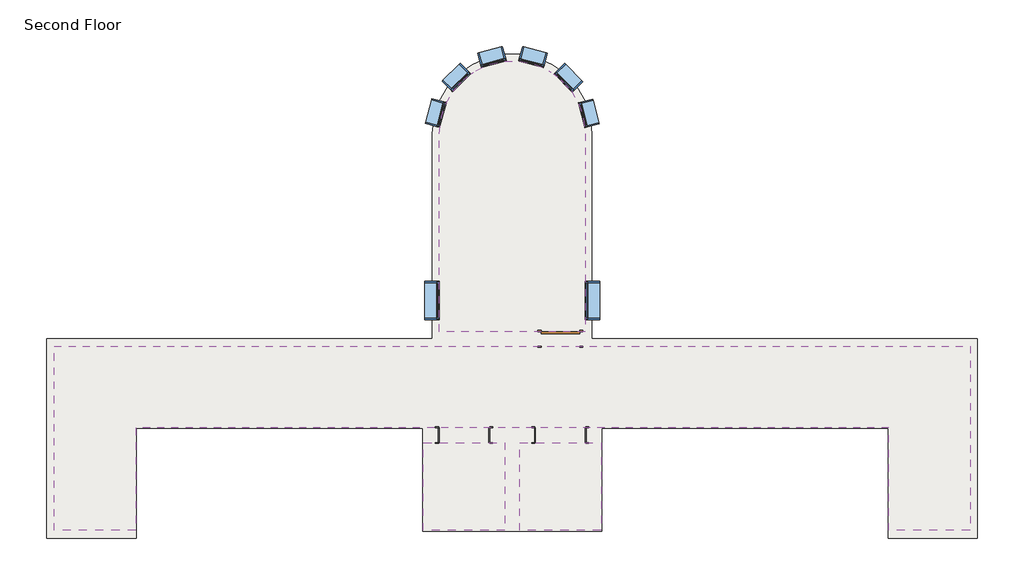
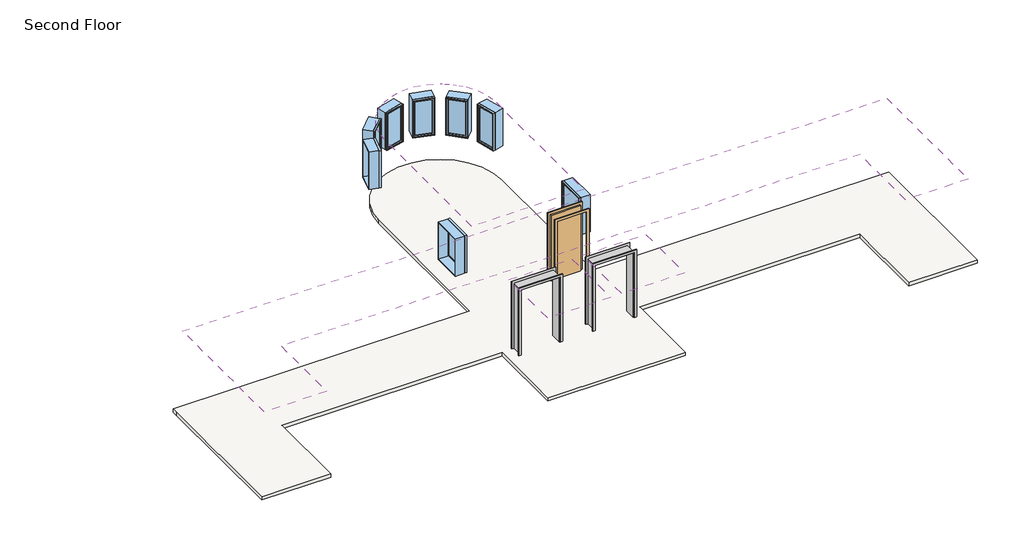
# One storey: 8 windows, 4 coverings, 2 proxies, 1 door, 1 slab.
"""IFC4 building model written with IfcOpenShell, lengths in millimetres."""

import ifcopenshell
import ifcopenshell.guid

model = None  # the IFC model being written
_history = None  # IfcOwnerHistory: only IFC2X3 demands one
_inside = {}  # id of a spatial element -> (the spatial element, [elements in it])
_under = {}  # id of a project, library or spatial element -> (it, [spatial elements below it])
_declared = {}  # id of a project -> (the project, [libraries it declares])
_typed = {}  # id of a type object -> (the type object, [elements of that type])
_made_of = {}  # id of a material, layer set ... -> (it, [elements and type objects made of it])


def new_model(schema):
    """Start an empty IFC model of exactly this schema.

    Asked for "IFC4X3", IfcOpenShell would pick the latest addendum, in which some entities
    have other attributes; the version numbers below select the first issue.
    IFC2X3 requires an IfcOwnerHistory on every rooted entity: one is made here for all.
    """
    global model, _history
    if schema == "IFC4X3":
        model = ifcopenshell.file(schema_version=(4, 3, 0, 0))
    else:
        model = ifcopenshell.file(schema=schema)
    _inside.clear()
    _under.clear()
    _declared.clear()
    _typed.clear()
    _made_of.clear()
    _history = None
    if model.schema == "IFC2X3":
        org = make("IfcOrganization", Name="unknown")
        user = make(
            "IfcPersonAndOrganization",
            ThePerson=make("IfcPerson", FamilyName="unknown"),
            TheOrganization=org,
        )
        app = make(
            "IfcApplication",
            ApplicationDeveloper=org,
            Version="unknown",
            ApplicationFullName="unknown",
            ApplicationIdentifier="unknown",
        )
        _history = make(
            "IfcOwnerHistory",
            OwningUser=user,
            OwningApplication=app,
            ChangeAction="ADDED",
            CreationDate=0,
        )
    return model


def make(cls, **values):
    """One entity of the class cls with the attributes given. An attribute that is None is left unset."""
    return model.create_entity(
        cls, **{name: value for name, value in values.items() if value is not None}
    )


def rooted(cls, **values):
    """An entity with a GlobalId (a new one), such as an element, a storey or a relation."""
    return make(cls, GlobalId=ifcopenshell.guid.new(), OwnerHistory=_history, **values)


def si_unit(unit_type, name, prefix=None):
    """IfcSIUnit, for example si_unit("LENGTHUNIT", "METRE", prefix="MILLI")."""
    return make("IfcSIUnit", UnitType=unit_type, Prefix=prefix, Name=name)


def assignment(units):
    """IfcUnitAssignment: the units of a project."""
    return None if units is None else make("IfcUnitAssignment", Units=units)


def point(xyz):
    """IfcCartesianPoint."""
    return None if xyz is None else make("IfcCartesianPoint", Coordinates=xyz)


def direction(xyz):
    """IfcDirection."""
    return None if xyz is None else make("IfcDirection", DirectionRatios=xyz)


def frame(location, z_axis=None, x_axis=None):
    """IfcAxis2Placement3D, a coordinate frame: its origin and axes. An axis left out is left unset."""
    return make(
        "IfcAxis2Placement3D",
        Location=point(location),
        Axis=direction(z_axis),
        RefDirection=direction(x_axis),
    )


def frame_2d(location, x_axis=None):
    """IfcAxis2Placement2D, a coordinate frame in the plane: its origin and x axis."""
    return make(
        "IfcAxis2Placement2D", Location=point(location), RefDirection=direction(x_axis)
    )


def origin():
    """The frame at (0, 0, 0) with its axes left unset."""
    return frame((0.0, 0.0, 0.0))


def origin_with_axes():
    """The frame at (0, 0, 0) with the z axis (0, 0, 1) and the x axis (1, 0, 0) written out."""
    return frame((0.0, 0.0, 0.0), z_axis=(0.0, 0.0, 1.0), x_axis=(1.0, 0.0, 0.0))


def place(relative_to, where):
    """IfcLocalPlacement: puts the frame where relative to a parent placement (None: the world)."""
    return make(
        "IfcLocalPlacement", PlacementRelTo=relative_to, RelativePlacement=where
    )


def context(
    kind, dimensions, precision=None, world=None, true_north=None, identifier=None
):
    """IfcGeometricRepresentationContext, for example the 3D "Model" context."""
    return make(
        "IfcGeometricRepresentationContext",
        ContextIdentifier=identifier,
        ContextType=kind,
        CoordinateSpaceDimension=dimensions,
        Precision=precision,
        WorldCoordinateSystem=world,
        TrueNorth=true_north,
    )


def project(units=None, contexts=None):
    """IfcProject with its units and contexts."""
    return rooted(
        "IfcProject",
        Name="project",
        RepresentationContexts=contexts,
        UnitsInContext=assignment(units),
    )


def spatial(cls, under=None, at=None, **own):
    """A site, building, storey or space (cls), placed at a placement, below another one or the project."""
    s = rooted(cls, ObjectPlacement=at, **own)
    if under is not None:
        _under.setdefault(under.id(), (under, []))[1].append(s)
    return s


def polyline(points):
    """IfcPolyline through the points."""
    return make("IfcPolyline", Points=[point(p) for p in points])


def circle_curve(where, radius):
    """IfcCircle in the frame where."""
    return make("IfcCircle", Position=where, Radius=radius)


def trimmed(basis, trim1, trim2, sense, master):
    """IfcTrimmedCurve: the piece of a basis curve between two trims."""
    return make(
        "IfcTrimmedCurve",
        BasisCurve=basis,
        Trim1=trim1,
        Trim2=trim2,
        SenseAgreement=sense,
        MasterRepresentation=master,
    )


def segment(curve, same_sense, transition):
    """IfcCompositeCurveSegment."""
    return make(
        "IfcCompositeCurveSegment",
        Transition=transition,
        SameSense=same_sense,
        ParentCurve=curve,
    )


def composite_curve(segments, self_intersect=None):
    """IfcCompositeCurve: segments joined end to end."""
    return make("IfcCompositeCurve", Segments=segments, SelfIntersect=self_intersect)


def outline(outer, holes=None, kind="AREA"):
    """IfcArbitraryClosedProfileDef: a profile drawn as a closed curve; with holes, ...WithVoids."""
    if holes is None:
        return make("IfcArbitraryClosedProfileDef", ProfileType=kind, OuterCurve=outer)
    return make(
        "IfcArbitraryProfileDefWithVoids",
        ProfileType=kind,
        OuterCurve=outer,
        InnerCurves=holes,
    )


def extrude(swept, where, along, depth):
    """IfcExtrudedAreaSolid: the profile swept, set in the frame where, extruded along a direction by depth."""
    return make(
        "IfcExtrudedAreaSolid",
        SweptArea=swept,
        Position=where,
        ExtrudedDirection=direction(along),
        Depth=depth,
    )


def faces_of(points, faces, orient=None, outer=None):
    """IfcFace entities. A face is a list of loops; a loop is a list of indices into points, from 0.

    orient and outer hold one flag for each loop. By default every Orientation is true, the
    first loop of a face is its IfcFaceOuterBound and the others are IfcFaceBound.
    """
    made = []
    for i, loops in enumerate(faces):
        bounds = []
        for j, loop in enumerate(loops):
            is_outer = j == 0 if outer is None else outer[i][j]
            bounds.append(
                make(
                    "IfcFaceOuterBound" if is_outer else "IfcFaceBound",
                    Bound=make("IfcPolyLoop", Polygon=[points[k] for k in loop]),
                    Orientation=True if orient is None else orient[i][j],
                )
            )
        made.append(make("IfcFace", Bounds=bounds))
    return made


def faceted_brep(points, faces, orient=None, outer=None, voids=None):
    """IfcFacetedBrep: a solid bounded by flat faces; with voids (closed shells), ...WithVoids."""
    shared = [point(p) for p in points]
    hull = make("IfcClosedShell", CfsFaces=faces_of(shared, faces, orient, outer))
    if voids is None:
        return make("IfcFacetedBrep", Outer=hull)
    return make(
        "IfcFacetedBrepWithVoids",
        Outer=hull,
        Voids=[
            make(cls, CfsFaces=faces_of(shared, fs, o, b)) for cls, fs, o, b in voids
        ],
    )


def shape(context_of_items, identifier, shape_type, items):
    """IfcShapeRepresentation: the items that make up one representation, for example the "Body"."""
    return make(
        "IfcShapeRepresentation",
        ContextOfItems=context_of_items,
        RepresentationIdentifier=identifier,
        RepresentationType=shape_type,
        Items=items,
    )


def source(mapping_origin, context_of_items, identifier, shape_type, items):
    """IfcRepresentationMap: a shape defined once, which mapped items show again and again."""
    return make(
        "IfcRepresentationMap",
        MappingOrigin=mapping_origin,
        MappedRepresentation=shape(context_of_items, identifier, shape_type, items),
    )


def transform(
    local_origin,
    x_axis=None,
    y_axis=None,
    z_axis=None,
    scale=None,
    scale2=None,
    scale3=None,
    uniform=True,
):
    """IfcCartesianTransformationOperator3D, or its non-uniform kind. x_axis, y_axis, z_axis: its Axis1, 2, 3."""
    if uniform:
        return make(
            "IfcCartesianTransformationOperator3D",
            Axis1=direction(x_axis),
            Axis2=direction(y_axis),
            LocalOrigin=point(local_origin),
            Scale=scale,
            Axis3=direction(z_axis),
        )
    return make(
        "IfcCartesianTransformationOperator3DnonUniform",
        Axis1=direction(x_axis),
        Axis2=direction(y_axis),
        LocalOrigin=point(local_origin),
        Scale=scale,
        Axis3=direction(z_axis),
        Scale2=scale2,
        Scale3=scale3,
    )


def mapped(mapping_source, mapping_target):
    """IfcMappedItem: shows the shape of a source again, moved by a transform."""
    return make(
        "IfcMappedItem", MappingSource=mapping_source, MappingTarget=mapping_target
    )


def made_of(thing, what):
    """Note that an element or type object is made of a material, layer set ...; save() writes the relation."""
    if what is not None:
        _made_of.setdefault(what.id(), (what, []))[1].append(thing)
    return thing


def element(
    cls,
    number,
    at=None,
    inside=None,
    cuts=None,
    type_object=None,
    material=None,
    context=None,
    identifier="Body",
    shape_type=None,
    held_by="IfcProductDefinitionShape",
    body=None,
    shapes=None,
    **own,
):
    """One element of the class cls, such as IfcWall. Its Tag is "e" and its number.

    at: its placement. inside: the storey or other place that contains it. cuts: it is an
    opening in that element (IfcRelVoidsElement). A single representation is given by context,
    identifier, shape_type and body (its items); several are given by shapes. held_by: the class
    of the entity that holds the representations. save() writes the other relations.
    """
    e = rooted(cls, Tag="e%d" % number, ObjectPlacement=at, **own)
    if body is not None:
        shapes = [shape(context, identifier, shape_type, body)]
    if shapes is not None:
        e.Representation = make(held_by, Representations=shapes)
    if inside is not None:
        _inside.setdefault(inside.id(), (inside, []))[1].append(e)
    if cuts is not None:
        rooted(
            "IfcRelVoidsElement", RelatingBuildingElement=cuts, RelatedOpeningElement=e
        )
    if type_object is not None:
        _typed.setdefault(type_object.id(), (type_object, []))[1].append(e)
    return made_of(e, material)


def aggregate(whole, parts):
    """IfcRelAggregates: a whole, such as a stair, and the parts it consists of."""
    return rooted("IfcRelAggregates", RelatingObject=whole, RelatedObjects=parts)


def save(model, path):
    """Write the relations noted so far, then the file.

    IfcRelAggregates (storeys below a building ...), IfcRelContainedInSpatialStructure (elements
    in a storey), IfcRelDefinesByType, IfcRelAssociatesMaterial and IfcRelDeclares: one each for
    every whole, place, type object, material and project.
    """
    for whole, parts in _under.values():
        aggregate(whole, parts)
    for where, things in _inside.values():
        rooted(
            "IfcRelContainedInSpatialStructure",
            RelatedElements=things,
            RelatingStructure=where,
        )
    for kind, things in _typed.values():
        rooted("IfcRelDefinesByType", RelatedObjects=things, RelatingType=kind)
    for what, things in _made_of.values():
        rooted("IfcRelAssociatesMaterial", RelatedObjects=things, RelatingMaterial=what)
    for by, libraries in _declared.values():
        rooted("IfcRelDeclares", RelatingContext=by, RelatedDefinitions=libraries)
    model.write(path)


def proxy_c3589814(model_context):
    return source(origin(), model_context, "Body", "SolidModel", [
        extrude(outline(polyline([(0.0, -611.4386567), (2127.25, -611.4386567), (2127.25, 595.0613433), (0.0, 595.0613433), (0.0, 671.2613433), (2203.45, 671.2613433), (2203.45, -687.6386567), (0.0, -687.6386567), (0.0, -611.4386567)])), frame((0.0, -195.2625, 0.0), z_axis=(0.0, 1.0, 0.0), x_axis=(0.0, 0.0, 1.0)), (0.0, 0.0, 1.0), 19.05),
        extrude(outline(polyline([(0.0, 671.2613433), (2209.8, 671.2613433), (2209.8, -687.6386567), (0.0, -687.6386567), (0.0, -611.4386567), (2127.25, -611.4386567), (2127.25, 595.0613433), (0.0, 595.0613433), (0.0, 671.2613433)])), frame((0.0, 176.2125, 0.0), z_axis=(0.0, 1.0, 0.0), x_axis=(0.0, 0.0, 1.0)), (0.0, 0.0, 1.0), 19.05),
        faceted_brep([(582.3613433, 176.2125, 0.0), (601.4113433, 176.2125, 0.0), (601.4113433, -176.2125, 0.0), (582.3613433, -176.2125, 0.0), (582.3613433, 176.2125, 2114.55), (601.4113433, 176.2125, 2133.6), (601.4113433, -176.2125, 2133.6), (582.3613433, -176.2125, 2114.55), (-598.7386567, 176.2125, 2114.55), (-617.7886567, 176.2125, 2133.6), (-617.7886567, -176.2125, 2133.6), (-598.7386567, -176.2125, 2114.55), (-598.7386567, 176.2125, 0.0), (-598.7386567, -176.2125, 0.0), (-617.7886567, -176.2125, 0.0), (-617.7886567, 176.2125, 0.0)], [[[0, 1, 2, 3]], [[1, 0, 4, 5]], [[2, 1, 5, 6]], [[3, 2, 6, 7]], [[0, 3, 7, 4]], [[5, 4, 8, 9]], [[6, 5, 9, 10]], [[7, 6, 10, 11]], [[4, 7, 11, 8]], [[12, 13, 14, 15]], [[9, 8, 12, 15]], [[10, 9, 15, 14]], [[11, 10, 14, 13]], [[8, 11, 13, 12]]]),
    ])


def door_632be17d(model_context):
    return source(origin(), model_context, "Body", "SweptSolid", [
        extrude(outline(polyline([(2209.8, -533.4), (0.0, -533.4), (0.0, -457.2), (2133.6, -457.2), (2133.6, 457.2), (0.0, 457.2), (0.0, 533.4), (2209.8, 533.4), (2209.8, -533.4)])), frame((0.0, 176.2125, 0.0), z_axis=(0.0, 1.0, 0.0), x_axis=(0.0, 0.0, 1.0)), (0.0, 0.0, 1.0), 25.4),
        extrude(outline(polyline([(2209.8, 533.4), (2209.8, -533.4), (0.0, -533.4), (0.0, -457.2), (2133.6, -457.2), (2133.6, 457.2), (0.0, 457.2), (0.0, 533.4), (2209.8, 533.4)])), frame((0.0, -201.6125, 0.0), z_axis=(0.0, 1.0, 0.0), x_axis=(0.0, 0.0, 1.0)), (0.0, 0.0, 1.0), 25.4),
        extrude(outline(polyline([(457.2, 125.4125), (-457.2, 125.4125), (-457.2, 176.2125), (457.2, 176.2125), (457.2, 125.4125)])), origin_with_axes(), (0.0, 0.0, 1.0), 2133.6),
    ])


def window_60baf983(model_context):
    return source(origin(), model_context, "Body", "SweptSolid", [
        extrude(outline(polyline([(203.2, 128.5875), (-279.4, 128.5875), (-279.4, 141.2875), (203.2, 141.2875), (203.2, 128.5875)])), frame((0.0, 0.0, 977.9), z_axis=(0.0, 0.0, 1.0), x_axis=(1.0, 0.0, 0.0)), (0.0, 0.0, 1.0), 1092.2),
        extrude(outline(polyline([(2114.55, -323.85), (933.45, -323.85), (933.45, 247.65), (2114.55, 247.65), (2114.55, -323.85)]), holes=[polyline([(2070.1, -279.4), (2070.1, 203.2), (977.9, 203.2), (977.9, -279.4), (2070.1, -279.4)])]), frame((0.0, 112.7125, 0.0), z_axis=(0.0, 1.0, 0.0), x_axis=(0.0, 0.0, 1.0)), (0.0, 0.0, 1.0), 44.45),
        extrude(outline(polyline([(2133.6, -342.9), (914.4, -342.9), (914.4, 266.7), (2133.6, 266.7), (2133.6, -342.9)]), holes=[polyline([(2101.85, -311.15), (2101.85, 234.95), (946.15, 234.95), (946.15, -311.15), (2101.85, -311.15)])]), frame((0.0, -176.2125, 0.0), z_axis=(0.0, 1.0, 0.0), x_axis=(0.0, 0.0, 1.0)), (0.0, 0.0, 1.0), 288.925),
        extrude(outline(polyline([(2133.6, 266.7), (2133.6, -342.9), (914.4, -342.9), (914.4, 266.7), (2133.6, 266.7)]), holes=[polyline([(2114.55, 247.65), (933.45, 247.65), (933.45, -323.85), (2114.55, -323.85), (2114.55, 247.65)])]), frame((0.0, 112.7125, 0.0), z_axis=(0.0, 1.0, 0.0), x_axis=(0.0, 0.0, 1.0)), (0.0, 0.0, 1.0), 63.5),
    ])


def window_15c49d37(model_context):
    return source(origin(), model_context, "Body", "SweptSolid", [
        extrude(outline(polyline([(355.6, 128.5875), (-431.8, 128.5875), (-431.8, 141.2875), (355.6, 141.2875), (355.6, 128.5875)])), frame((0.0, 0.0, 977.9), z_axis=(0.0, 0.0, 1.0), x_axis=(1.0, 0.0, 0.0)), (0.0, 0.0, 1.0), 1092.2),
        extrude(outline(polyline([(2114.55, -476.25), (933.45, -476.25), (933.45, 400.05), (2114.55, 400.05), (2114.55, -476.25)]), holes=[polyline([(2070.1, -431.8), (2070.1, 355.6), (977.9, 355.6), (977.9, -431.8), (2070.1, -431.8)])]), frame((0.0, 112.7125, 0.0), z_axis=(0.0, 1.0, 0.0), x_axis=(0.0, 0.0, 1.0)), (0.0, 0.0, 1.0), 44.45),
        extrude(outline(polyline([(2133.6, -495.3), (914.4, -495.3), (914.4, 419.1), (2133.6, 419.1), (2133.6, -495.3)]), holes=[polyline([(2101.85, -463.55), (2101.85, 387.35), (946.15, 387.35), (946.15, -463.55), (2101.85, -463.55)])]), frame((0.0, -176.2125, 0.0), z_axis=(0.0, 1.0, 0.0), x_axis=(0.0, 0.0, 1.0)), (0.0, 0.0, 1.0), 288.925),
        extrude(outline(polyline([(2133.6, 419.1), (2133.6, -495.3), (914.4, -495.3), (914.4, 419.1), (2133.6, 419.1)]), holes=[polyline([(2114.55, 400.05), (933.45, 400.05), (933.45, -476.25), (2114.55, -476.25), (2114.55, 400.05)])]), frame((0.0, 112.7125, 0.0), z_axis=(0.0, 1.0, 0.0), x_axis=(0.0, 0.0, 1.0)), (0.0, 0.0, 1.0), 63.5),
    ])


model = new_model("IFC4")

# Units and contexts
model_context = context("Model", 3, world=origin())
ifc_project = project(units=[si_unit("LENGTHUNIT", "METRE", prefix="MILLI")], contexts=[model_context])

# Site, building, storey
site = spatial("IfcSite", under=ifc_project)
building = spatial("IfcBuilding", under=site)
storey = spatial("IfcBuildingStorey", under=building, Name="Second Floor", Elevation=3048.0)

# Proxies
placement = place(None, origin())
proxy_shape = proxy_c3589814(model_context)
element("IfcBuildingElementProxy", 1, Name="Opening-Cased : 48\" x 84\"", ObjectType="Opening-Cased : 48\" x 84\"", at=placement, inside=storey, context=model_context, shape_type="MappedRepresentation", body=[
    mapped(proxy_shape, transform((-7396.8036255, 2429.9758812, 3048.0), x_axis=(-1.0, 0.0, 0.0), y_axis=(0.0, -1.0, 0.0), z_axis=(0.0, 0.0, 1.0))),
])
element("IfcBuildingElementProxy", 2, Name="Opening-Cased : 48\" x 84\"", ObjectType="Opening-Cased : 48\" x 84\"", at=placement, inside=storey, context=model_context, shape_type="MappedRepresentation", body=[
    mapped(proxy_shape, transform((-5110.8036255, 2429.9758812, 3048.0), x_axis=(-1.0, 0.0, 0.0), y_axis=(0.0, -1.0, 0.0), z_axis=(0.0, 0.0, 1.0))),
])

# Coverings
element("IfcCovering", 3, ObjectType="GWB on Mtl. Stud", at=placement, inside=storey, context=model_context, shape_type="SweptSolid", body=[
    extrude(outline(polyline([(2693.5975313, 167.7883812), (2693.5975313, 2606.1883812), (-15184.8274687, 2606.1883812), (-15184.8274687, 167.7883812), (-17118.4024687, 167.7883812), (-17118.4024687, 4539.7633812), (4627.1725313, 4539.7633812), (4627.1725313, 167.7883812), (2693.5975313, 167.7883812)])), frame((0.0, 0.0, 5638.8), z_axis=(0.0, 0.0, 1.0), x_axis=(1.0, 0.0, 0.0)), (0.0, 0.0, 1.0), 107.95),
])
element("IfcCovering", 4, ObjectType="GWB on Mtl. Stud", at=placement, inside=storey, context=model_context, shape_type="SweptSolid", body=[
    extrude(outline(composite_curve([segment(polyline([(-7974.4024687, 4892.1883812), (-7974.4024687, 9592.7758812)]), True, "CONTINUOUS"), segment(trimmed(circle_curve(frame_2d((-6245.6149687, 9592.7758812)), 1728.7875), [point((-7974.4024687, 9592.7758812))], [point((-4516.8274687, 9592.7758812))], False, "CARTESIAN"), True, "CONTINUOUS"), segment(polyline([(-4516.8274687, 9592.7758812), (-4516.8274687, 4892.1883812), (-7974.4024687, 4892.1883812)]), True, "CONTINUOUS")], self_intersect=False)), frame((0.0, 0.0, 5638.8), z_axis=(0.0, 0.0, 1.0), x_axis=(1.0, 0.0, 0.0)), (0.0, 0.0, 1.0), 107.95),
])
element("IfcCovering", 5, ObjectType="GWB on Mtl. Stud", at=placement, inside=storey, context=model_context, shape_type="SweptSolid", body=[
    extrude(outline(polyline([(-6421.8274687, 167.7883812), (-8355.4024687, 167.7883812), (-8355.4024687, 2253.7633812), (-6421.8274687, 2253.7633812), (-6421.8274687, 167.7883812)])), frame((0.0, 0.0, 5638.8), z_axis=(0.0, 0.0, 1.0), x_axis=(1.0, 0.0, 0.0)), (0.0, 0.0, 1.0), 107.95),
])
element("IfcCovering", 6, ObjectType="GWB on Mtl. Stud", at=placement, inside=storey, context=model_context, shape_type="SweptSolid", body=[
    extrude(outline(polyline([(-4135.8274687, 2253.7633812), (-4135.8274687, 167.7883812), (-6069.4024687, 167.7883812), (-6069.4024687, 2253.7633812), (-4135.8274687, 2253.7633812)])), frame((0.0, 0.0, 5638.8), z_axis=(0.0, 0.0, 1.0), x_axis=(1.0, 0.0, 0.0)), (0.0, 0.0, 1.0), 107.95),
])

# Door
door_shape = door_632be17d(model_context)
element("IfcDoor", 7, ObjectType="Single-Flush : 36\" x 84\"", at=placement, inside=storey, context=model_context, shape_type="MappedRepresentation", body=[
    mapped(door_shape, transform((-5102.6149687, 4715.9758812, 3048.0), x_axis=(1.0, 0.0, 0.0), y_axis=(0.0, 1.0, 0.0), z_axis=(0.0, 0.0, 1.0))),
])

# Slab
element("IfcSlab", 8, ObjectType="LW Concrete on Metal Deck", at=placement, inside=storey, context=model_context, shape_type="SweptSolid", body=[
    extrude(outline(composite_curve([segment(polyline([(-17305.7274687, 4552.4633812), (-17305.7274687, 4715.9758812), (-8139.5024687, 4715.9758812), (-8139.5024687, 9592.7758812)]), True, "CONTINUOUS"), segment(trimmed(circle_curve(frame_2d((-6245.6149687, 9592.7758812)), 1893.8875), [point((-8139.5024687, 9592.7758812))], [point((-4351.7274687, 9592.7758812))], False, "CARTESIAN"), True, "CONTINUOUS"), segment(polyline([(-4351.7274687, 9592.7758812), (-4351.7274687, 4715.9758812), (4803.3850313, 4715.9758812), (4803.3850313, -19.5366188), (2680.8975313, -19.5366188), (2680.8975313, 2593.4883812), (-4123.1274687, 2593.4883812), (-4123.1274687, 155.0883812), (-8368.1024687, 155.0883812), (-8368.1024687, 2593.4883812), (-15172.1274687, 2593.4883812), (-15172.1274687, -19.5366188), (-17305.7274687, -19.5366188), (-17305.7274687, 4552.4633812)]), True, "CONTINUOUS")], self_intersect=False)), frame((0.0, 0.0, 2943.225), z_axis=(0.0, 0.0, 1.0), x_axis=(1.0, 0.0, 0.0)), (0.0, 0.0, 1.0), 104.775),
])

# Windows
window_shape = window_60baf983(model_context)
element("IfcWindow", 9, ObjectType="Fixed : 24\" x 48\"", at=placement, inside=storey, context=model_context, shape_type="MappedRepresentation", body=[
    mapped(window_shape, transform((-8072.5076754, 10048.7859441, 3048.0), x_axis=(-0.2617614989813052, -0.9651325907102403, 0.0), y_axis=(0.9651325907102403, -0.2617614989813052, 0.0), z_axis=(0.0, 0.0, 1.0))),
])
element("IfcWindow", 10, ObjectType="Fixed : 24\" x 48\"", at=placement, inside=storey, context=model_context, shape_type="MappedRepresentation", body=[
    mapped(window_shape, transform((-7599.7454312, 10901.1385333, 3048.0), x_axis=(-0.7092584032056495, -0.7049485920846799, 0.0), y_axis=(0.7049485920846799, -0.7092584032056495, 0.0), z_axis=(0.0, 0.0, 1.0))),
])
element("IfcWindow", 11, ObjectType="Fixed : 24\" x 48\"", at=placement, inside=storey, context=model_context, shape_type="MappedRepresentation", body=[
    mapped(window_shape, transform((-6764.1450232, 11402.9164066, 3048.0), x_axis=(-0.96671009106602, -0.25587418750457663, 0.0), y_axis=(0.25587418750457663, -0.96671009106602, 0.0), z_axis=(0.0, 0.0, 1.0))),
])
element("IfcWindow", 12, ObjectType="Fixed : 24\" x 48\"", at=placement, inside=storey, context=model_context, shape_type="MappedRepresentation", body=[
    mapped(window_shape, transform((-5789.6049059, 11419.6685878, 3048.0), x_axis=(-0.9651325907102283, 0.2617614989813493, 0.0), y_axis=(-0.2617614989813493, -0.9651325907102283, 0.0), z_axis=(0.0, 0.0, 1.0))),
])
element("IfcWindow", 13, ObjectType="Fixed : 24\" x 48\"", at=placement, inside=storey, context=model_context, shape_type="MappedRepresentation", body=[
    mapped(window_shape, transform((-4937.2523166, 10946.9063437, 3048.0), x_axis=(-0.7049485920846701, 0.7092584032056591, 0.0), y_axis=(-0.7092584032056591, -0.7049485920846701, 0.0), z_axis=(0.0, 0.0, 1.0))),
])
element("IfcWindow", 14, ObjectType="Fixed : 24\" x 48\"", at=placement, inside=storey, context=model_context, shape_type="MappedRepresentation", body=[
    mapped(window_shape, transform((-4435.4744434, 10111.3059357, 3048.0), x_axis=(-0.25587418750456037, 0.9667100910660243, 0.0), y_axis=(-0.9667100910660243, -0.25587418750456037, 0.0), z_axis=(0.0, 0.0, 1.0))),
])
window_2_shape = window_15c49d37(model_context)
element("IfcWindow", 15, ObjectType="Fixed : 36\" x 48\"", at=placement, inside=storey, context=model_context, shape_type="MappedRepresentation", body=[
    mapped(window_2_shape, transform((-8150.6149687, 5592.2758812, 3048.0), x_axis=(0.0, -1.0, 0.0), y_axis=(1.0, 0.0, 0.0), z_axis=(0.0, 0.0, 1.0))),
])
element("IfcWindow", 16, ObjectType="Fixed : 36\" x 48\"", at=placement, inside=storey, context=model_context, shape_type="MappedRepresentation", body=[
    mapped(window_2_shape, transform((-4340.6149687, 5668.4758812, 3048.0), x_axis=(0.0, 1.0, 0.0), y_axis=(-1.0, 0.0, 0.0), z_axis=(0.0, 0.0, 1.0))),
])

save(model, "model.ifc")
